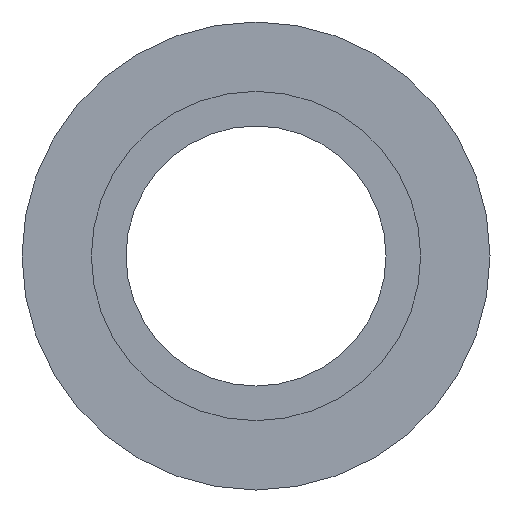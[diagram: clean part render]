
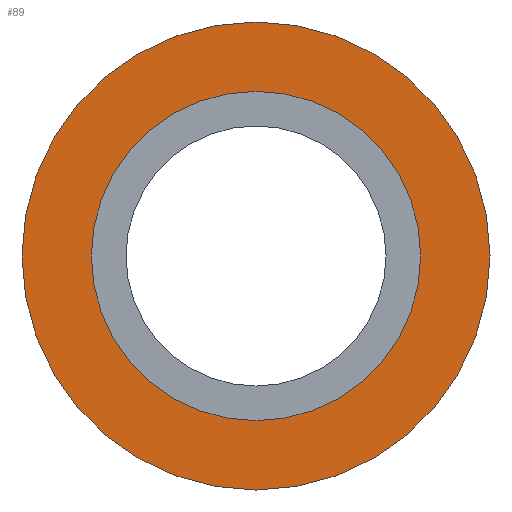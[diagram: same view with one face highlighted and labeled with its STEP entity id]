
A CAD part, front view. The second image highlights one B-rep face of the part: STEP entity #89.
In plain terms, the highlighted planar face has unit normal (0, -1, 0).
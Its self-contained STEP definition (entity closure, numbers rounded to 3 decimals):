
#17=FACE_BOUND('',#35,.T.);
#20=PLANE('',#124);
#26=FACE_OUTER_BOUND('',#34,.T.);
#34=EDGE_LOOP('',(#79));
#35=EDGE_LOOP('',(#80));
#45=CIRCLE('',#118,9.5);
#46=CIRCLE('',#121,13.5);
#51=VERTEX_POINT('',#164);
#52=VERTEX_POINT('',#169);
#59=EDGE_CURVE('',#51,#51,#45,.T.);
#60=EDGE_CURVE('',#52,#52,#46,.T.);
#79=ORIENTED_EDGE('',*,*,#60,.T.);
#80=ORIENTED_EDGE('',*,*,#59,.T.);
#89=ADVANCED_FACE('',(#26,#17),#20,.F.);
#118=AXIS2_PLACEMENT_3D('',#166,#139,#140);
#121=AXIS2_PLACEMENT_3D('',#170,#145,#146);
#124=AXIS2_PLACEMENT_3D('',#175,#152,#153);
#139=DIRECTION('center_axis',(0.,1.,0.));
#140=DIRECTION('ref_axis',(1.,0.,0.));
#145=DIRECTION('center_axis',(0.,-1.,0.));
#146=DIRECTION('ref_axis',(-1.,0.,0.));
#152=DIRECTION('center_axis',(0.,1.,0.));
#153=DIRECTION('ref_axis',(0.,0.,1.));
#164=CARTESIAN_POINT('',(-9.5,-2.,0.));
#166=CARTESIAN_POINT('Origin',(0.,-2.,0.));
#169=CARTESIAN_POINT('',(13.5,-2.,0.));
#170=CARTESIAN_POINT('Origin',(0.,-2.,0.));
#175=CARTESIAN_POINT('Origin',(0.,-2.,0.));
